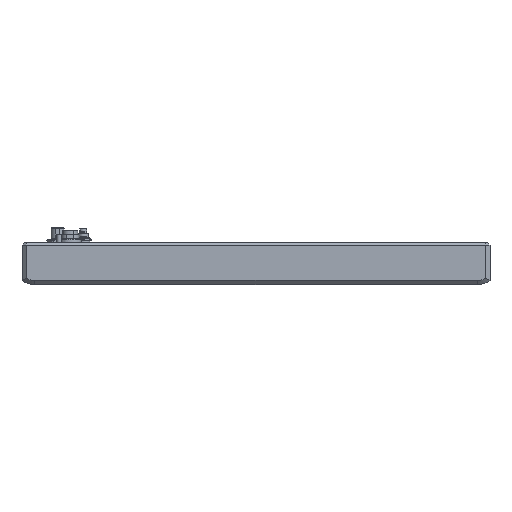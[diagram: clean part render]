
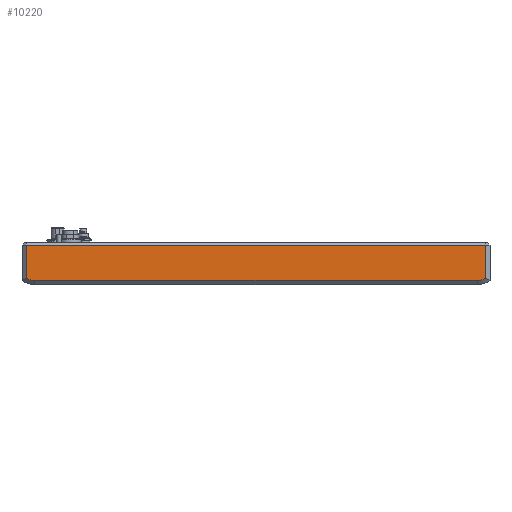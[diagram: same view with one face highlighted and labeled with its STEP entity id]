
A CAD part, left-side view. The second image highlights one B-rep face of the part: STEP entity #10220.
In plain terms, the highlighted planar face has unit normal (-1, 0, 0).
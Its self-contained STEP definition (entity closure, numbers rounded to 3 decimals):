
#9726=CARTESIAN_POINT('',(-281.5,-209.2,5.879));
#9727=VERTEX_POINT('',#9726);
#9728=CARTESIAN_POINT('',(-281.5,-201.26,3.8));
#9729=VERTEX_POINT('',#9728);
#9730=CARTESIAN_POINT('',(-281.5,-201.26,20.0));
#9731=DIRECTION('',(1.0,0.0,0.0));
#9732=DIRECTION('',(0.0,-0.587,-0.81));
#9733=AXIS2_PLACEMENT_3D('',#9730,#9731,#9732);
#9734=CIRCLE('',#9733,16.2);
#9735=EDGE_CURVE('',#9727,#9729,#9734,.T.);
#9760=CARTESIAN_POINT('',(-281.5,201.26,3.8));
#9761=VERTEX_POINT('',#9760);
#9762=CARTESIAN_POINT('',(-281.5,-201.26,3.8));
#9763=DIRECTION('',(0.0,1.0,0.0));
#9764=VECTOR('',#9763,402.52);
#9765=LINE('',#9762,#9764);
#9766=EDGE_CURVE('',#9729,#9761,#9765,.T.);
#9789=CARTESIAN_POINT('',(-281.5,209.2,5.879));
#9790=VERTEX_POINT('',#9789);
#9791=CARTESIAN_POINT('',(-281.5,201.26,20.0));
#9792=DIRECTION('',(1.0,0.0,0.0));
#9793=DIRECTION('',(0.0,0.0,-1.0));
#9794=AXIS2_PLACEMENT_3D('',#9791,#9792,#9793);
#9795=CIRCLE('',#9794,16.2);
#9796=EDGE_CURVE('',#9761,#9790,#9795,.T.);
#10176=CARTESIAN_POINT('',(-281.5,209.2,36.0));
#10177=VERTEX_POINT('',#10176);
#10186=CARTESIAN_POINT('',(-281.5,209.2,5.879));
#10187=DIRECTION('',(0.0,0.0,1.0));
#10188=VECTOR('',#10187,30.121);
#10189=LINE('',#10186,#10188);
#10190=EDGE_CURVE('',#9790,#10177,#10189,.T.);
#10195=CARTESIAN_POINT('',(-281.5,-213.,0.0));
#10196=DIRECTION('',(-1.0,0.0,0.0));
#10197=DIRECTION('',(0.0,0.0,1.0));
#10198=AXIS2_PLACEMENT_3D('',#10195,#10196,#10197);
#10199=PLANE('',#10198);
#10200=CARTESIAN_POINT('',(-281.5,-209.2,36.0));
#10201=VERTEX_POINT('',#10200);
#10202=CARTESIAN_POINT('',(-281.5,209.2,36.0));
#10203=DIRECTION('',(0.0,-1.0,0.0));
#10204=VECTOR('',#10203,418.4);
#10205=LINE('',#10202,#10204);
#10206=EDGE_CURVE('',#10177,#10201,#10205,.T.);
#10207=ORIENTED_EDGE('',*,*,#10206,.F.);
#10208=ORIENTED_EDGE('',*,*,#10190,.F.);
#10209=ORIENTED_EDGE('',*,*,#9796,.F.);
#10210=ORIENTED_EDGE('',*,*,#9766,.F.);
#10211=ORIENTED_EDGE('',*,*,#9735,.F.);
#10212=CARTESIAN_POINT('',(-281.5,-209.2,36.0));
#10213=DIRECTION('',(0.0,0.0,-1.0));
#10214=VECTOR('',#10213,30.121);
#10215=LINE('',#10212,#10214);
#10216=EDGE_CURVE('',#10201,#9727,#10215,.T.);
#10217=ORIENTED_EDGE('',*,*,#10216,.F.);
#10218=EDGE_LOOP('',(#10207,#10208,#10209,#10210,#10211,#10217));
#10219=FACE_OUTER_BOUND('',#10218,.T.);
#10220=ADVANCED_FACE('',(#10219),#10199,.T.);
